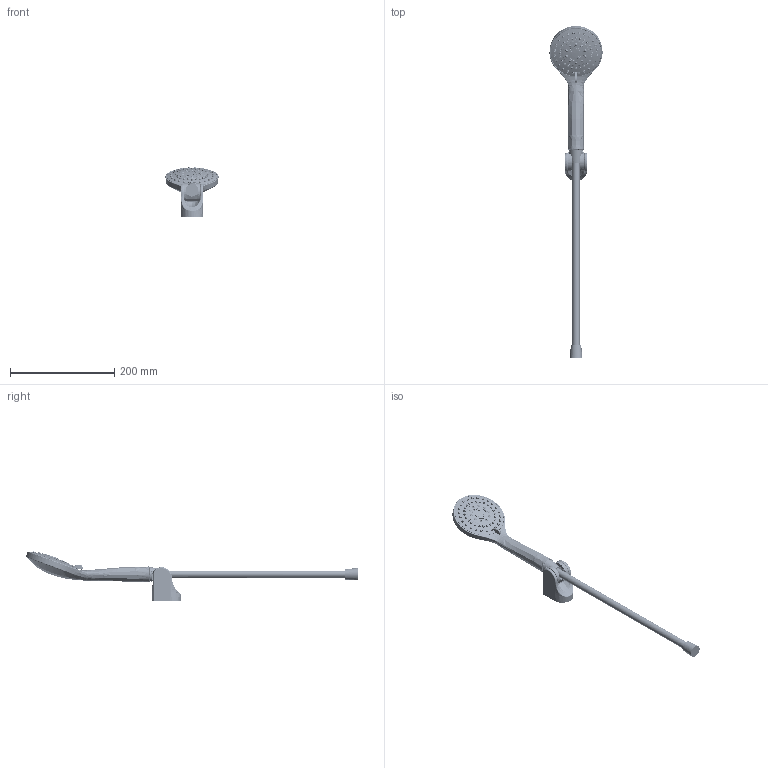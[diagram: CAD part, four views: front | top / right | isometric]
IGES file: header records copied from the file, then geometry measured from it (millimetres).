
Global section: file name: 5901867778970_igs; native system: Autodesk Inventor 2020; preprocessor: unknown; date: 20200727.140357; units: millimetre
Bounding box: 101.9 x 636.94 x 95.37 mm (x, y, z)
Surface area: 195669.3 mm2 (no closed solid volume)
Topology: 0 solids, 0 shells, 3241 faces, 58409 edges, 58171 vertices
Faces by surface type: bspline 1779, revolution 1462
